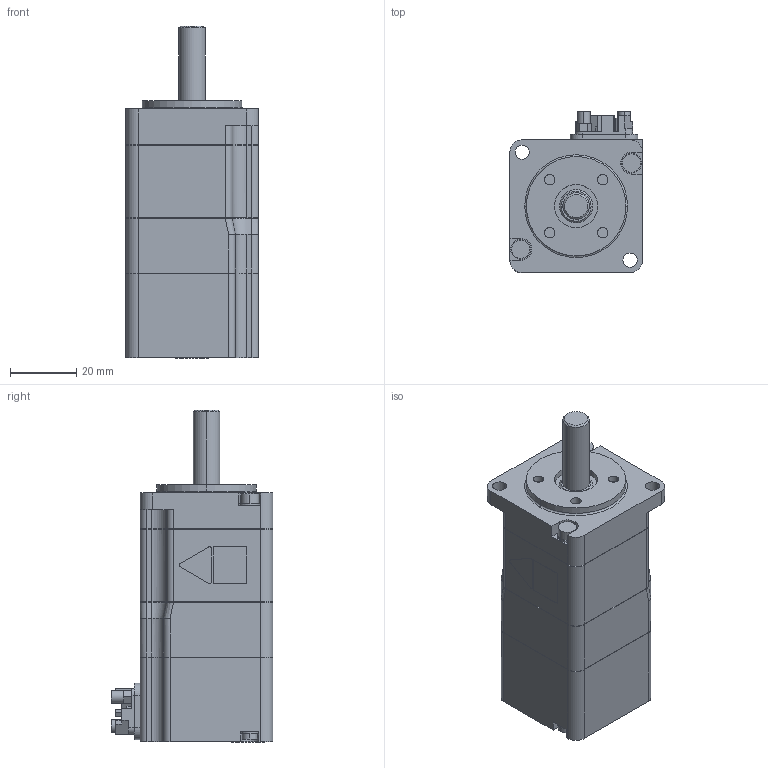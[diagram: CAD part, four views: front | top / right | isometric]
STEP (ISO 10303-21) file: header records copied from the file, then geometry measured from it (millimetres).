
FILE_DESCRIPTION (( 'STEP AP214' ), '1' );
FILE_NAME ('sgmxj_01awa21a1.STEP', '2021-01-21T00:11:50', ( 'EN00457-1' ), ( 'Hewlett-Packard Company' ), 'SwSTEP 2.0', 'SolidWorks 2016', '' );
FILE_SCHEMA (( 'AUTOMOTIVE_DESIGN' ));
Length unit declared in the file: millimetre
Products named in the file (1): sgmxj_01awa21a1
Bounding box: 40.1 x 48.8 x 100.1 mm (x, y, z)
Volume: 114999.3 mm3; surface area: 17895.6 mm2
Topology: 1 solids, 1 shells, 339 faces, 893 edges, 593 vertices
Faces by surface type: plane 198, cylinder 124, bspline 11, cone 4, torus 2
Entity records: 14498 total; most frequent: CARTESIAN_POINT 2200, ORIENTED_EDGE 1786, DIRECTION 1763, EDGE_CURVE 893, VECTOR 601, LINE 601, VERTEX_POINT 593, AXIS2_PLACEMENT_3D 581
